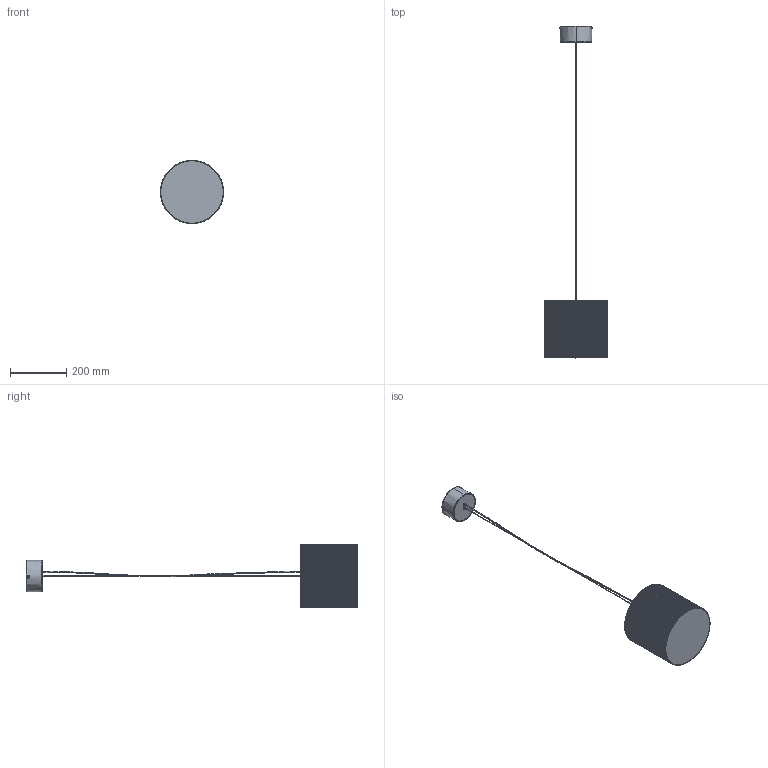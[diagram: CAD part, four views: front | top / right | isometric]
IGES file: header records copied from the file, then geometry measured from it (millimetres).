
Start section: SolidWorks IGES file using analytic representation for surfaces
Global section: file name: C:\SANTACOLE_PDM\Proyectos Catálogo\PROD-P21-011 -- CAPSULA HEADLED EJE\6_Técnico comercial\3D\CIXPA.IGS; native system: SolidWorks 2024; preprocessor: SolidWorks 2024; author: clara.galimany; date: 260213.114458; units: millimetre
Bounding box: 225.2 x 1185.03 x 225.2 mm (x, y, z)
Surface area: 508132.2 mm2 (no closed solid volume)
Topology: 0 solids, 0 shells, 1187 faces, 12924 edges, 12902 vertices
Faces by surface type: revolution 912, bspline 275
